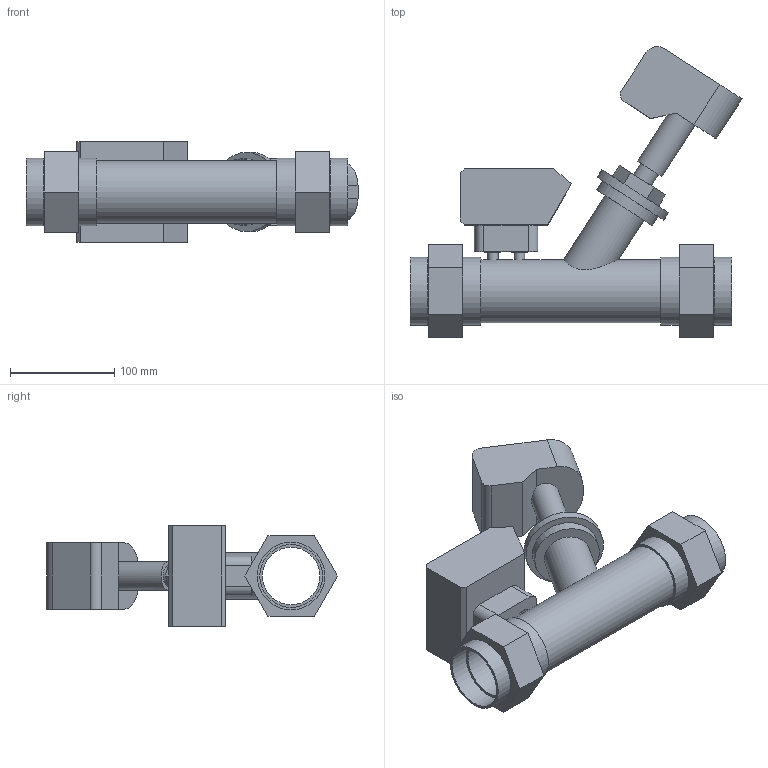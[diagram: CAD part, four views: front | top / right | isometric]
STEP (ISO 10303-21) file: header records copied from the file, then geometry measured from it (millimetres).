
FILE_DESCRIPTION(/* description */ ('VIC VALVE CONTROL TA SERIES 7SM (FPT)','CAx-IF Rec.Pracs.---Representation and Presentation of Product Manufacturing Information (PMI)---4.0---2014-10-13'),/* implementation_level */ '2;1');
FILE_NAME(/* name */ 'C:\Users\kkamble\Documents\7SM\STEP\Victaulic_IPS_Valve Control_TA Series 7SM (FPT)\Victaulic_IPS_Valve Control_TA Series 7SM (FPT)_2 (50).stp',/* time_stamp */ '2021-08-27T13:16:24+06:00',/* author */ ('cps_temp'),/* organization */ ('Victaulic'),/* preprocessor_version */ 'ST-DEVELOPER v17.2',/* originating_system */ 'Autodesk Inventor 2019',/* authorisation */ '');
FILE_SCHEMA (('AP242_MANAGED_MODEL_BASED_3D_ENGINEERING_MIM_LF { 1 0 10303 442 1 1 4 }'));
Length unit declared in the file: inch
Products named in the file (1): 7SM-02.0
Bounding box: 319.01 x 279.38 x 97.03 mm (x, y, z)
Volume: 1431871 mm3; surface area: 227938.1 mm2
Topology: 1 solids, 1 shells, 84 faces, 212 edges, 149 vertices
Faces by surface type: plane 57, cylinder 25, cone 2
Full cylindrical faces by diameter (mm): 10.16 x2, 15.24 x2, 20.32 x1, 27.94 x1, 44.45 x1, 55.245 x1, 60.325 x3, 63.5 x1, 65.075 x4, 76.2 x1
Entity records: 2938 total; most frequent: CARTESIAN_POINT 589, DIRECTION 475, ORIENTED_EDGE 424, EDGE_CURVE 212, AXIS2_PLACEMENT_3D 171, VERTEX_POINT 149, LINE 133, VECTOR 133
